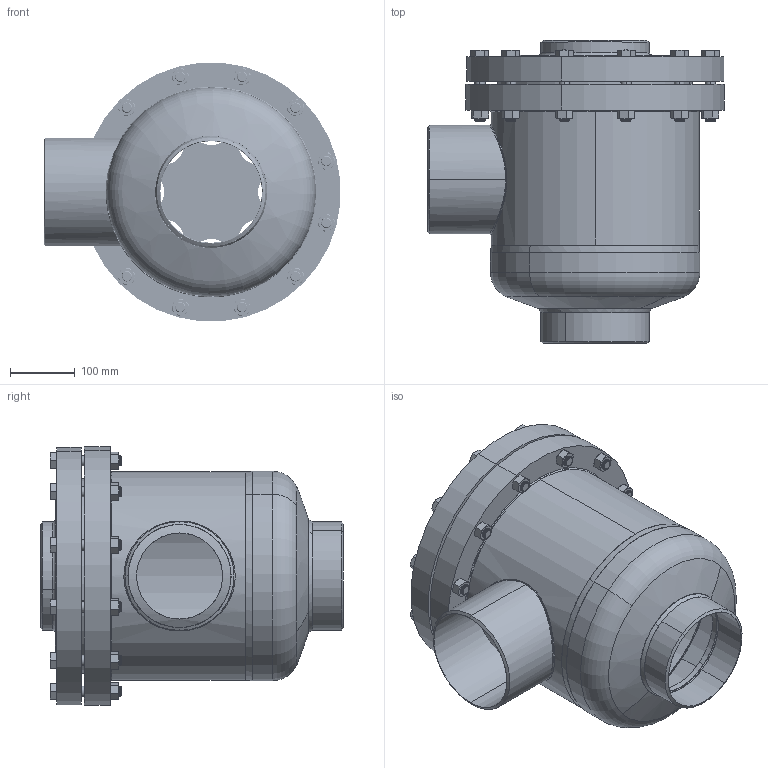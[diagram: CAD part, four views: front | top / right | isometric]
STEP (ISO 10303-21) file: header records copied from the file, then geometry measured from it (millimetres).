
FILE_DESCRIPTION (( 'STEP AP214' ), '1' );
FILE_NAME ('TR47000B21-DN150_R1_PS25.STEP', '2005-08-10T05:22:49', ( 'Herr Grams' ), ( 'AWP GmbH' ), 'SwSTEP 2.0', 'SolidWorks 2002296', '' );
FILE_SCHEMA (( 'AUTOMOTIVE_DESIGN' ));
Length unit declared in the file: millimetre
Products named in the file (18): TR47000B21-DN150_R1_PS25; Geh-kpl47000B21-DN150_PS25_R1_Standard; Geh47000B21_DN150_PS25_R1_Standard; Boden47000B_DN125-150_PS25_DN150; RohrstutzA47000B21-DN150_PS40_R1_Standard; Kopfring47000B21_DN150_PS25_Standard; bead21-1_Standard; bead21-5_Standard; bead21-4_Standard; Kehlnaht21-3_Standard; Kehlnaht21-2_Standard; RohrstutzE00000-DN125-150_PS40_R1_DN 150; Führungsring47000E21-DN150_Standard; Andruckplatte47000E21-DN150_Standard; Deckel47000B21_DN150_PS25_R1_Standard; loser Flansch47000B21_DN150_PS25_Standard; Sechskantschraube-DIN933-M16x100_M16x100; Sechskantmutter-DIN934_M16
Assembly tree (39 placements, depth 3):
  TR47000B21-DN150_R1_PS25
    Führungsring47000E21-DN150_Standard
    Sechskantmutter-DIN934_M16  x12
    Sechskantschraube-DIN933-M16x100_M16x100  x12
    Deckel47000B21_DN150_PS25_R1_Standard
    loser Flansch47000B21_DN150_PS25_Standard
    Geh-kpl47000B21-DN150_PS25_R1_Standard
      Kopfring47000B21_DN150_PS25_Standard
      bead21-5_Standard
      bead21-1_Standard
      Kehlnaht21-3_Standard
      Geh47000B21_DN150_PS25_R1_Standard
      Boden47000B_DN125-150_PS25_DN150
      RohrstutzA47000B21-DN150_PS40_R1_Standard
      bead21-4_Standard
      Kehlnaht21-2_Standard
      RohrstutzE00000-DN125-150_PS40_R1_DN 150
    Andruckplatte47000E21-DN150_Standard
Bounding box: 458.74 x 468.5 x 399.47 mm (x, y, z)
Volume: 10394763.9 mm3; surface area: 2067168.1 mm2
Topology: 38 solids, 38 shells, 1335 faces, 3360 edges, 2132 vertices
Faces by surface type: cylinder 638, cone 380, plane 261, bspline 36, torus 12, sphere 8
Entity records: 36599 total; most frequent: CARTESIAN_POINT 26930, DIRECTION 1922, ORIENTED_EDGE 1770, EDGE_CURVE 885, AXIS2_PLACEMENT_3D 832, VERTEX_POINT 570, EDGE_LOOP 495, CIRCLE 436
